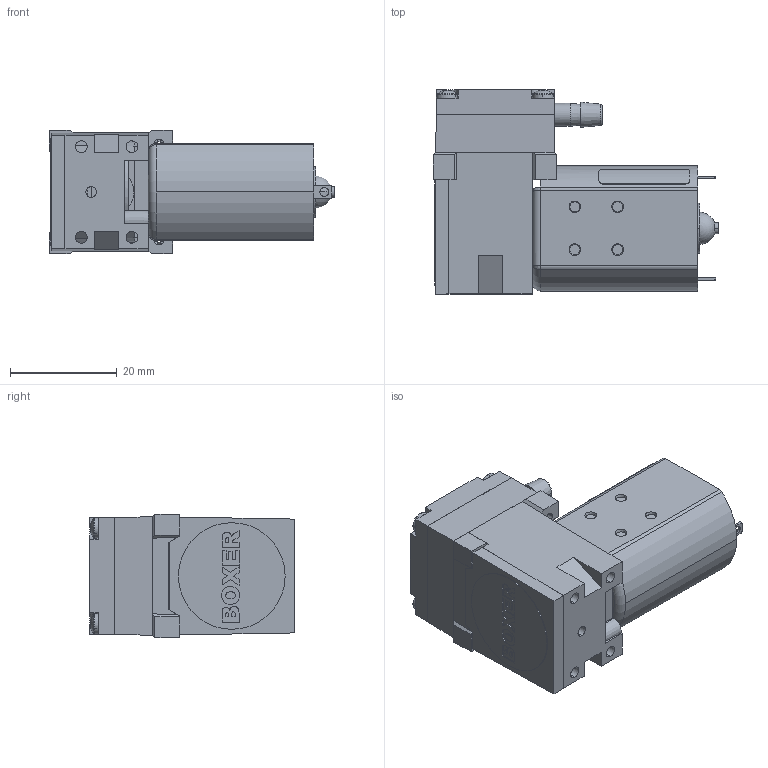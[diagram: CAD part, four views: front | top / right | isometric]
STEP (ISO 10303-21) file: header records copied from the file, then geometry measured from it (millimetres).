
FILE_DESCRIPTION (( 'STEP AP203' ), '1' );
FILE_NAME ('16K IG Part.STEP', '2017-01-21T07:55:21', ( '' ), ( '' ), 'SwSTEP 2.0', 'SolidWorks 2015', '' );
FILE_SCHEMA (( 'CONFIG_CONTROL_DESIGN' ));
Length unit declared in the file: millimetre
Products named in the file (1): 16K IG Part
Bounding box: 53.59 x 38.34 x 23.18 mm (x, y, z)
Surface area: 9469.6 mm2 (no closed solid volume)
Topology: 0 solids, 11 shells, 418 faces, 1293 edges, 889 vertices
Faces by surface type: plane 241, cylinder 78, cone 43, bspline 33, torus 13, sphere 10
Entity records: 16313 total; most frequent: CARTESIAN_POINT 4910, DIRECTION 2299, ORIENTED_EDGE 2270, EDGE_CURVE 1285, VERTEX_POINT 887, AXIS2_PLACEMENT_3D 786, LINE 727, VECTOR 727
